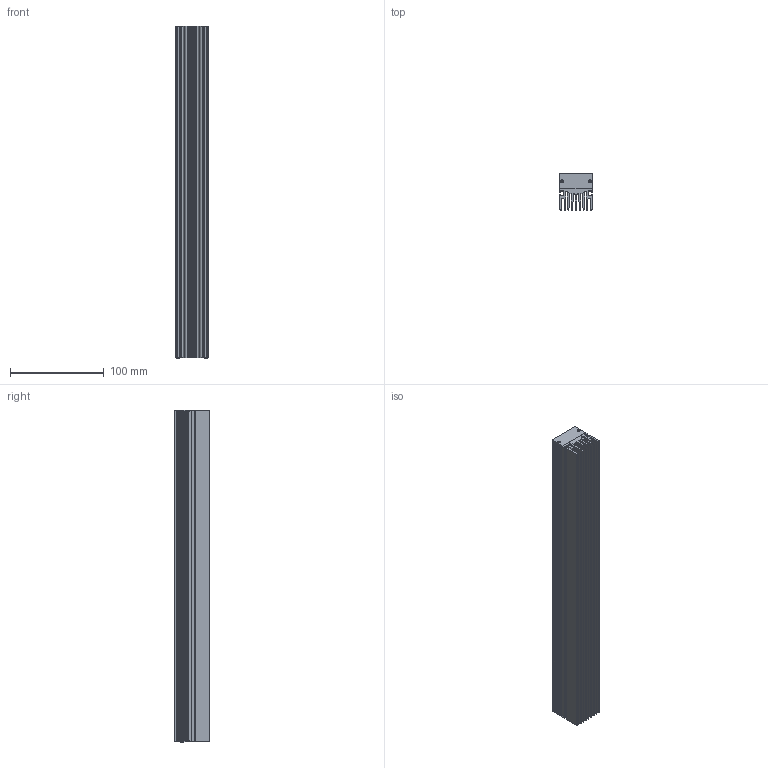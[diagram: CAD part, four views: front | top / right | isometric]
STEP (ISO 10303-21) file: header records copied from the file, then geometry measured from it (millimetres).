
FILE_DESCRIPTION((''),'2;1');
FILE_NAME('HSL','2020-03-25T',('ASUS'),(''),'PRO/ENGINEER BY PARAMETRIC TECHNOLOGY CORPORATION, 2008380','PRO/ENGINEER BY PARAMETRIC TECHNOLOGY CORPORATION, 2008380','');
FILE_SCHEMA(('CONFIG_CONTROL_DESIGN'));
Length unit declared in the file: millimetre
Products named in the file (1): HSL
Bounding box: 35 x 38 x 354 mm (x, y, z)
Volume: 328284.1 mm3; surface area: 170387.9 mm2
Topology: 1 solids, 1 shells, 171 faces, 454 edges, 300 vertices
Faces by surface type: plane 145, cylinder 18, cone 8
Entity records: 5274 total; most frequent: CARTESIAN_POINT 931, ORIENTED_EDGE 908, DIRECTION 836, EDGE_CURVE 454, VECTOR 410, LINE 410, VERTEX_POINT 300, AXIS2_PLACEMENT_3D 213
